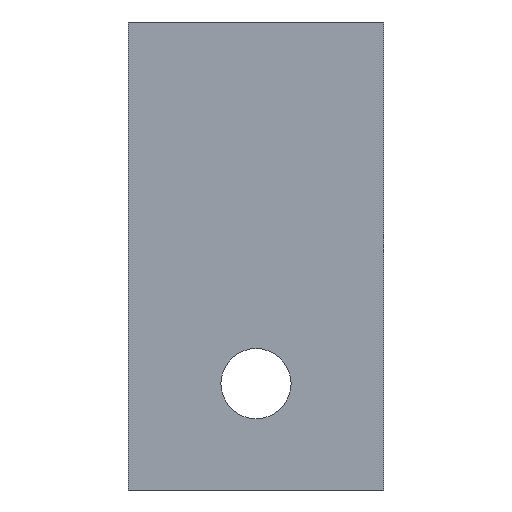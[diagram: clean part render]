
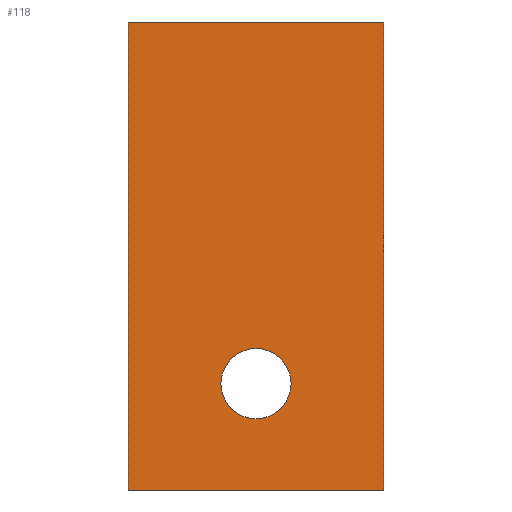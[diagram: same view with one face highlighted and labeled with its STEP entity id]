
A CAD part, front view. The second image highlights one B-rep face of the part: STEP entity #118.
In plain terms, the highlighted planar face has unit normal (0, -1, 0).
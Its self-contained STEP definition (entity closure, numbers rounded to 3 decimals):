
#3 = CARTESIAN_POINT ( 'NONE',  ( 0., 0., -110. ) ) ;
#17 = CARTESIAN_POINT ( 'NONE',  ( 0., 0., -110. ) ) ;
#20 = EDGE_CURVE ( 'NONE', #162, #110, #210, .T. ) ;
#24 = DIRECTION ( 'NONE',  ( 0., 0., 1. ) ) ;
#26 = VERTEX_POINT ( 'NONE', #102 ) ;
#30 = VECTOR ( 'NONE', #153, 1000. ) ;
#36 = AXIS2_PLACEMENT_3D ( 'NONE', #199, #62, #24 ) ;
#45 = VECTOR ( 'NONE', #267, 1000. ) ;
#53 = DIRECTION ( 'NONE',  ( 0., -1., 0. ) ) ;
#61 = PLANE ( 'NONE',  #282 ) ;
#62 = DIRECTION ( 'NONE',  ( 0., 1., 0. ) ) ;
#71 = DIRECTION ( 'NONE',  ( 0., 1., 0. ) ) ;
#85 = ORIENTED_EDGE ( 'NONE', *, *, #143, .T. ) ;
#91 = VERTEX_POINT ( 'NONE', #107 ) ;
#97 = DIRECTION ( 'NONE',  ( 0., 0., 1. ) ) ;
#102 = CARTESIAN_POINT ( 'NONE',  ( 30., 0., -76.75 ) ) ;
#107 = CARTESIAN_POINT ( 'NONE',  ( 60., 0., 0. ) ) ;
#108 = EDGE_CURVE ( 'NONE', #306, #162, #139, .T. ) ;
#110 = VERTEX_POINT ( 'NONE', #132 ) ;
#118 = ADVANCED_FACE ( 'NONE', ( #283, #159 ), #61, .T. ) ;
#120 = LINE ( 'NONE', #124, #194 ) ;
#123 = CARTESIAN_POINT ( 'NONE',  ( 30., 0., -85. ) ) ;
#124 = CARTESIAN_POINT ( 'NONE',  ( 60., 0., 0. ) ) ;
#128 = AXIS2_PLACEMENT_3D ( 'NONE', #123, #71, #97 ) ;
#132 = CARTESIAN_POINT ( 'NONE',  ( 0., 0., 0. ) ) ;
#138 = EDGE_CURVE ( 'NONE', #110, #91, #299, .T. ) ;
#139 = LINE ( 'NONE', #3, #232 ) ;
#140 = ORIENTED_EDGE ( 'NONE', *, *, #228, .F. ) ;
#143 = EDGE_CURVE ( 'NONE', #26, #233, #254, .T. ) ;
#145 = DIRECTION ( 'NONE',  ( 0., 0., -1. ) ) ;
#153 = DIRECTION ( 'NONE',  ( 1., 0., 0. ) ) ;
#157 = ORIENTED_EDGE ( 'NONE', *, *, #223, .T. ) ;
#159 = FACE_BOUND ( 'NONE', #217, .T. ) ;
#162 = VERTEX_POINT ( 'NONE', #17 ) ;
#184 = ORIENTED_EDGE ( 'NONE', *, *, #20, .F. ) ;
#187 = ORIENTED_EDGE ( 'NONE', *, *, #108, .F. ) ;
#192 = CARTESIAN_POINT ( 'NONE',  ( 0., 0., 0. ) ) ;
#193 = CARTESIAN_POINT ( 'NONE',  ( 0., 0., 0. ) ) ;
#194 = VECTOR ( 'NONE', #145, 1000. ) ;
#199 = CARTESIAN_POINT ( 'NONE',  ( 30., 0., -85. ) ) ;
#210 = LINE ( 'NONE', #192, #45 ) ;
#212 = ORIENTED_EDGE ( 'NONE', *, *, #138, .F. ) ;
#217 = EDGE_LOOP ( 'NONE', ( #157, #85 ) ) ;
#219 = CARTESIAN_POINT ( 'NONE',  ( 60., 0., -110. ) ) ;
#220 = CIRCLE ( 'NONE', #128, 8.25 ) ;
#221 = DIRECTION ( 'NONE',  ( 0., 0., -1. ) ) ;
#223 = EDGE_CURVE ( 'NONE', #233, #26, #220, .T. ) ;
#227 = CARTESIAN_POINT ( 'NONE',  ( 0., 0., 0. ) ) ;
#228 = EDGE_CURVE ( 'NONE', #91, #306, #120, .T. ) ;
#232 = VECTOR ( 'NONE', #261, 1000. ) ;
#233 = VERTEX_POINT ( 'NONE', #312 ) ;
#254 = CIRCLE ( 'NONE', #36, 8.25 ) ;
#261 = DIRECTION ( 'NONE',  ( -1., 0., 0. ) ) ;
#267 = DIRECTION ( 'NONE',  ( 0., 0., 1. ) ) ;
#282 = AXIS2_PLACEMENT_3D ( 'NONE', #193, #53, #221 ) ;
#283 = FACE_OUTER_BOUND ( 'NONE', #284, .T. ) ;
#284 = EDGE_LOOP ( 'NONE', ( #184, #187, #140, #212 ) ) ;
#299 = LINE ( 'NONE', #227, #30 ) ;
#306 = VERTEX_POINT ( 'NONE', #219 ) ;
#312 = CARTESIAN_POINT ( 'NONE',  ( 30., 0., -93.25 ) ) ;
